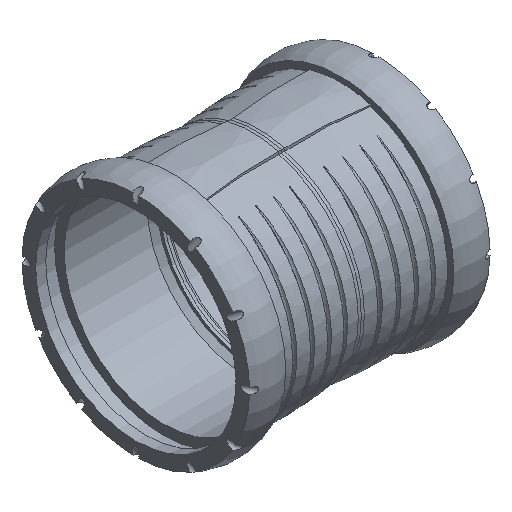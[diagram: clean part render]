
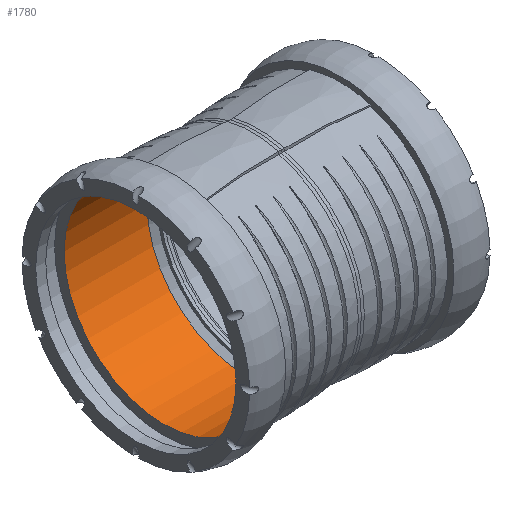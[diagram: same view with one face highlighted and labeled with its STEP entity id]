
A CAD part, isometric view. The second image highlights one B-rep face of the part: STEP entity #1780.
In plain terms, the highlighted cylindrical face has radius 63 mm (diameter 126 mm), a full revolution.
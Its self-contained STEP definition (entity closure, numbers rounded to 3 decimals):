
#357=FACE_OUTER_BOUND('',#587,.T.);
#394=CYLINDRICAL_SURFACE('',#1928,63.);
#441=FACE_BOUND('',#588,.T.);
#587=EDGE_LOOP('',(#1540));
#588=EDGE_LOOP('',(#1541));
#659=CIRCLE('',#1927,63.);
#660=CIRCLE('',#1929,63.);
#831=VERTEX_POINT('',#7808);
#832=VERTEX_POINT('',#7811);
#1071=EDGE_CURVE('',#831,#831,#659,.T.);
#1072=EDGE_CURVE('',#832,#832,#660,.T.);
#1540=ORIENTED_EDGE('',*,*,#1071,.T.);
#1541=ORIENTED_EDGE('',*,*,#1072,.F.);
#1780=ADVANCED_FACE('',(#357,#441),#394,.F.);
#1927=AXIS2_PLACEMENT_3D('',#7809,#2228,#2229);
#1928=AXIS2_PLACEMENT_3D('',#7810,#2230,#2231);
#1929=AXIS2_PLACEMENT_3D('',#7812,#2232,#2233);
#2228=DIRECTION('center_axis',(-1.,0.,0.));
#2229=DIRECTION('ref_axis',(0.,0.,
-1.));
#2230=DIRECTION('center_axis',(-1.,0.,0.));
#2231=DIRECTION('ref_axis',(0.,-1.,0.));
#2232=DIRECTION('center_axis',(-1.,0.,0.));
#2233=DIRECTION('ref_axis',(0.,0.,
-1.));
#7808=CARTESIAN_POINT('',(-58.05,-63.,0.));
#7809=CARTESIAN_POINT('Origin',(-58.05,0.,
0.));
#7810=CARTESIAN_POINT('Origin',(-31.925,0.,
0.));
#7811=CARTESIAN_POINT('',(-5.8,-63.,0.));
#7812=CARTESIAN_POINT('Origin',(-5.8,0.,
0.));
